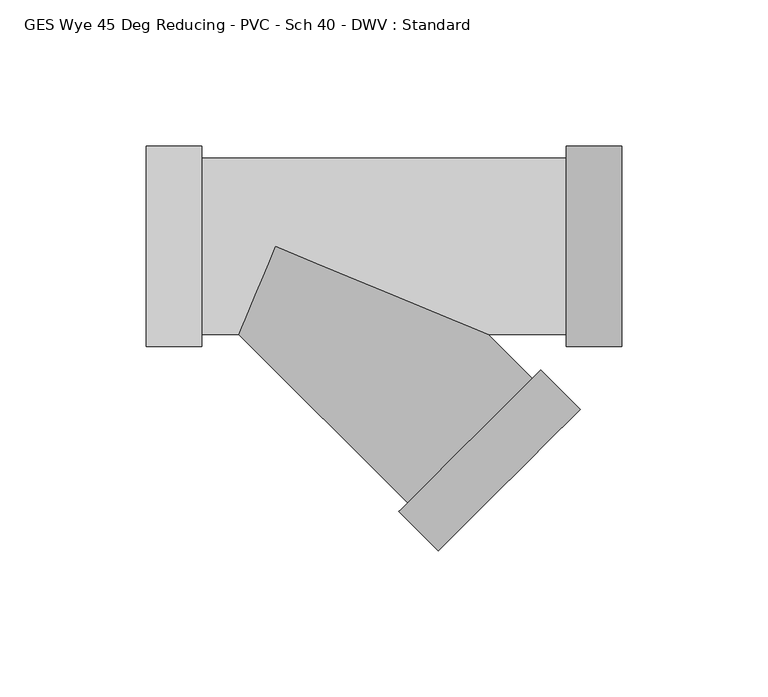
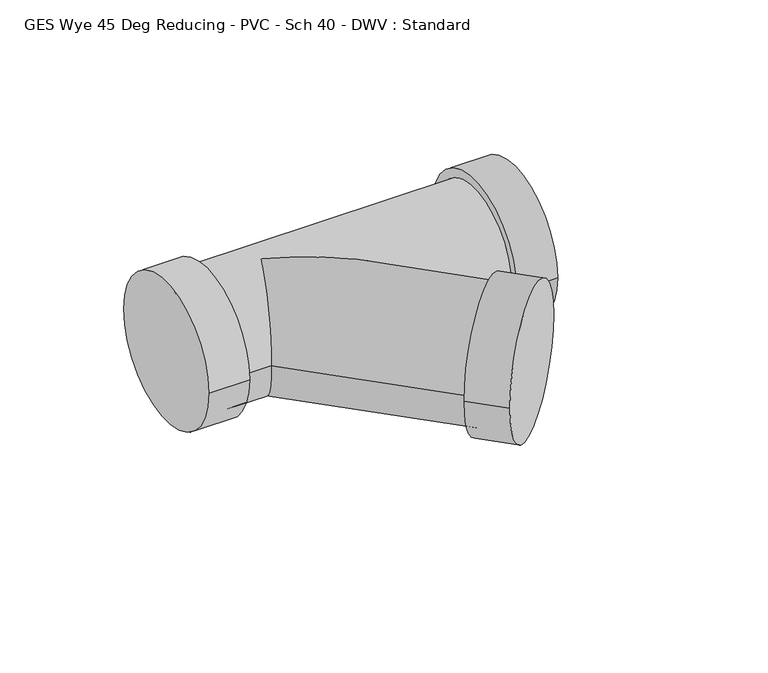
"""IFC4 building model written with IfcOpenShell, lengths in millimetres: pipe fitting geometry, GES Wye 45 Deg Reducing - PVC - Sch 40 - DWV : Standard."""

from ifc_helpers import new_model, si_unit, frame, origin, place, context, project, spatial, circle_curve, ellipse_curve, source, transform, mapped, element, save
from ifc_brep_helpers import plane_surface, cylinder_surface, advanced_brep


def ges_wye_45_deg_reducing_pvc_sch_40_dwv_standard_9c642ce4(model_context):
    return source(origin(), model_context, "Body", "AdvancedBrep", [
        advanced_brep(
        [(-25.1182187, 34.3154, 0.0), (-25.1182187, -34.3154, 0.0), (-25.1182187, 30.1625, 0.0), (-25.1182187, -30.1625, 0.0), (-44.1682187, 34.3154, 0.0), (-44.1682187, -34.3154, 0.0), (99.5759375, -34.3154, 0.0), (99.5759375, 34.3154, 0.0), (99.5759375, -30.1625, 0.0), (99.5759375, 30.1625, 0.0), (118.6259375, -34.3154, 0.0), (118.6259375, 34.3154, 0.0), (72.8233449, -30.1625, 0.0), (0.0, 0.0, -30.1625), (-12.4929225, -30.1625, 0.0), (0.0, 0.0, 30.1625), (45.2840871, -87.9343167, 0.0), (87.9383866, -45.2761832, 0.0), (42.3476753, -90.8709924, 0.0), (90.8747984, -42.3395074, 0.0), (55.8186648, -104.3407712, 0.0), (104.3457879, -55.8092862, 0.0)],
        [
            (0, 1, circle_curve(frame((-25.1182187, 0.0, 0.0), z_axis=(1.0, 0.0, 0.0), x_axis=(0.0, -1.0, 0.0)), 34.3154)),
            (1, 0, circle_curve(frame((-25.1182187, 0.0, 0.0), z_axis=(1.0, 0.0, 0.0), x_axis=(0.0, -1.0, 0.0)), 34.3154)),
            (2, 3, circle_curve(frame((-25.1182187, 0.0, 0.0), z_axis=(-1.0, 0.0, 0.0), x_axis=(0.0, 0.0, -1.0)), 30.1625)),
            (3, 2, circle_curve(frame((-25.1182187, 0.0, 0.0), z_axis=(-1.0, 0.0, 0.0), x_axis=(0.0, 0.0, 1.0)), 30.1625)),
            (4, 5, circle_curve(frame((-44.1682187, 0.0, 0.0), z_axis=(-1.0, 0.0, 0.0), x_axis=(0.0, -1.0, 0.0)), 34.3154)),
            (5, 4, circle_curve(frame((-44.1682187, 0.0, 0.0), z_axis=(-1.0, 0.0, 0.0), x_axis=(0.0, -1.0, 0.0)), 34.3154)),
            (0, 4),
            (5, 1),
            (6, 7, circle_curve(frame((99.5759375, 0.0, 0.0), z_axis=(-1.0, 0.0, 0.0), x_axis=(0.0, 1.0, 0.0)), 34.3154)),
            (7, 6, circle_curve(frame((99.5759375, 0.0, 0.0), z_axis=(-1.0, 0.0, 0.0), x_axis=(0.0, 1.0, 0.0)), 34.3154)),
            (8, 9, circle_curve(frame((99.5759375, 0.0, 0.0), z_axis=(1.0, 0.0, 0.0), x_axis=(0.0, 0.0, -1.0)), 30.1625)),
            (9, 8, circle_curve(frame((99.5759375, 0.0, 0.0), z_axis=(1.0, 0.0, 0.0), x_axis=(0.0, 0.0, 1.0)), 30.1625)),
            (10, 11, circle_curve(frame((118.6259375, 0.0, 0.0), z_axis=(1.0, 0.0, 0.0), x_axis=(0.0, 1.0, 0.0)), 34.3154)),
            (11, 10, circle_curve(frame((118.6259375, 0.0, 0.0), z_axis=(1.0, 0.0, 0.0), x_axis=(0.0, 1.0, 0.0)), 34.3154)),
            (6, 10),
            (11, 7),
            (2, 9),
            (8, 12),
            (12, 13, ellipse_curve(frame((0.0, 0.0, 0.0), z_axis=(0.38266267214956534, 0.92388813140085, 0.0), x_axis=(0.92388813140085, -0.3826626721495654, 0.0)), 78.8226869, 30.1625)),
            (13, 14, ellipse_curve(frame((0.0, 0.0, 0.0), z_axis=(-0.92388813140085, 0.38266267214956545, 0.0), x_axis=(0.38266267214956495, 0.92388813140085, 0.0)), 32.6473509, 30.1625)),
            (14, 3),
            (14, 15, ellipse_curve(frame((0.0, 0.0, 0.0), z_axis=(-0.92388813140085, 0.38266267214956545, 0.0), x_axis=(0.38266267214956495, 0.92388813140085, 0.0)), 32.6473509, 30.1625)),
            (15, 12, ellipse_curve(frame((0.0, 0.0, 0.0), z_axis=(0.38266267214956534, 0.92388813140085, 0.0), x_axis=(0.92388813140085, -0.3826626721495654, 0.0)), 78.8226869, 30.1625)),
            (14, 16),
            (16, 17, circle_curve(frame((66.6112368, -66.6052499, 0.0), z_axis=(-0.7071385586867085, 0.7070750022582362, 0.0), x_axis=(0.7070750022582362, 0.7071385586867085, 0.0)), 30.1625)),
            (17, 12),
            (17, 16, circle_curve(frame((66.6112368, -66.6052499, 0.0), z_axis=(-0.7071385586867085, 0.7070750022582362, 0.0), x_axis=(0.7070750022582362, 0.7071385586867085, 0.0)), 30.1625)),
            (18, 19, circle_curve(frame((66.6112368, -66.6052499, 0.0), z_axis=(-0.7071385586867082, 0.7070750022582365, 0.0), x_axis=(0.7070750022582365, 0.7071385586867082, 0.0)), 34.3154)),
            (19, 18, circle_curve(frame((66.6112368, -66.6052499, 0.0), z_axis=(-0.7071385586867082, 0.7070750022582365, 0.0), x_axis=(0.7070750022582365, 0.7071385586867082, 0.0)), 34.3154)),
            (20, 21, circle_curve(frame((80.0822264, -80.0750287, 0.0), z_axis=(0.7071385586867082, -0.7070750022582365, 0.0), x_axis=(0.7070750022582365, 0.7071385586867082, 0.0)), 34.3154)),
            (21, 20, circle_curve(frame((80.0822264, -80.0750287, 0.0), z_axis=(0.7071385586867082, -0.7070750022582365, 0.0), x_axis=(0.7070750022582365, 0.7071385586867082, 0.0)), 34.3154)),
            (18, 20),
            (21, 19),
        ],
        [
            plane_surface(frame((-25.1182187, 0.0, 0.0), z_axis=(1.0, 0.0, 0.0), x_axis=(0.0, 0.0, 1.0))),
            plane_surface(frame((-44.1682187, 0.0, 0.0), z_axis=(-1.0, 0.0, 0.0), x_axis=(0.0, 0.0, 1.0))),
            cylinder_surface(frame((-25.1182187, 0.0, 0.0), z_axis=(1.0, 0.0, 0.0), x_axis=(0.0, -1.0, 0.0)), 34.3154),
            plane_surface(frame((99.5759375, 0.0, 0.0), z_axis=(-1.0, 0.0, 0.0), x_axis=(0.0, 0.0, 1.0))),
            plane_surface(frame((118.6259375, 0.0, 0.0), z_axis=(1.0, 0.0, 0.0), x_axis=(0.0, 0.0, 1.0))),
            cylinder_surface(frame((99.5759375, 0.0, 0.0), z_axis=(-1.0, 0.0, 0.0), x_axis=(0.0, 1.0, 0.0)), 34.3154),
            cylinder_surface(frame((-25.1182187, 0.0, 0.0), z_axis=(1.0, 0.0, 0.0), x_axis=(0.0, 0.0, -1.0)), 30.1625),
            cylinder_surface(frame((-25.1182187, 0.0, 0.0), z_axis=(1.0, 0.0, 0.0), x_axis=(0.0, 0.0, 1.0)), 30.1625),
            cylinder_surface(frame((0.0, 0.0, 0.0), z_axis=(-0.7071385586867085, 0.7070750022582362, 0.0), x_axis=(0.7070750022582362, 0.7071385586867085, 0.0)), 30.1625),
            plane_surface(frame((66.6112368, -66.6052499, 0.0), z_axis=(-0.7071385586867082, 0.7070750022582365, 0.0), x_axis=(0.0, 0.0, 1.0))),
            plane_surface(frame((80.0822264, -80.0750287, 0.0), z_axis=(0.7071385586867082, -0.7070750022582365, 0.0), x_axis=(0.0, 0.0, 1.0))),
            cylinder_surface(frame((66.6112368, -66.6052499, 0.0), z_axis=(-0.7071385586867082, 0.7070750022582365, 0.0), x_axis=(0.7070750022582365, 0.7071385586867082, 0.0)), 34.3154),
        ],
        [
            (0, [[1, 2], [3, 4]]),
            (1, [[5, 6]]),
            (2, [[-1, 7, -6, 8]]),
            (2, [[-2, -8, -5, -7]]),
            (3, [[9, 10], [11, 12]]),
            (4, [[13, 14]]),
            (5, [[-9, 15, -14, 16]]),
            (5, [[-10, -16, -13, -15]]),
            (6, [[17, -11, 18, 19, 20, 21, -3]]),
            (7, [[-17, -4, -21, 22, 23, -18, -12]]),
            (8, [[24, 25, 26, -23, -22]]),
            (8, [[-24, -20, -19, -26, 27]]),
            (9, [[28, 29], [-25, -27]]),
            (10, [[30, 31]]),
            (11, [[-28, 32, -31, 33]]),
            (11, [[-29, -33, -30, -32]]),
        ],
    ),
    ])


if __name__ == "__main__":
    model = new_model("IFC4")
    model_context = context("Model", 3, world=origin())
    ifc_project = project(units=[si_unit("LENGTHUNIT", "METRE", prefix="MILLI")], contexts=[model_context])
    site = spatial("IfcSite", under=ifc_project)
    building = spatial("IfcBuilding", under=site)
    placement = place(None, origin())
    ges_wye_45_deg_reducing_pvc_sch_40_dwv_standard_shape = ges_wye_45_deg_reducing_pvc_sch_40_dwv_standard_9c642ce4(model_context)
    element("IfcPipeFitting", 1, ObjectType="GES Wye 45 Deg Reducing - PVC - Sch 40 - DWV : Standard", at=placement, inside=building, context=model_context, shape_type="MappedRepresentation", body=[
        mapped(ges_wye_45_deg_reducing_pvc_sch_40_dwv_standard_shape, transform((0.0, 0.0, 0.0), x_axis=(1.0, 0.0, 0.0), y_axis=(0.0, 1.0, 0.0), z_axis=(0.0, 0.0, 1.0))),
    ])
    save(model, "model.ifc")
